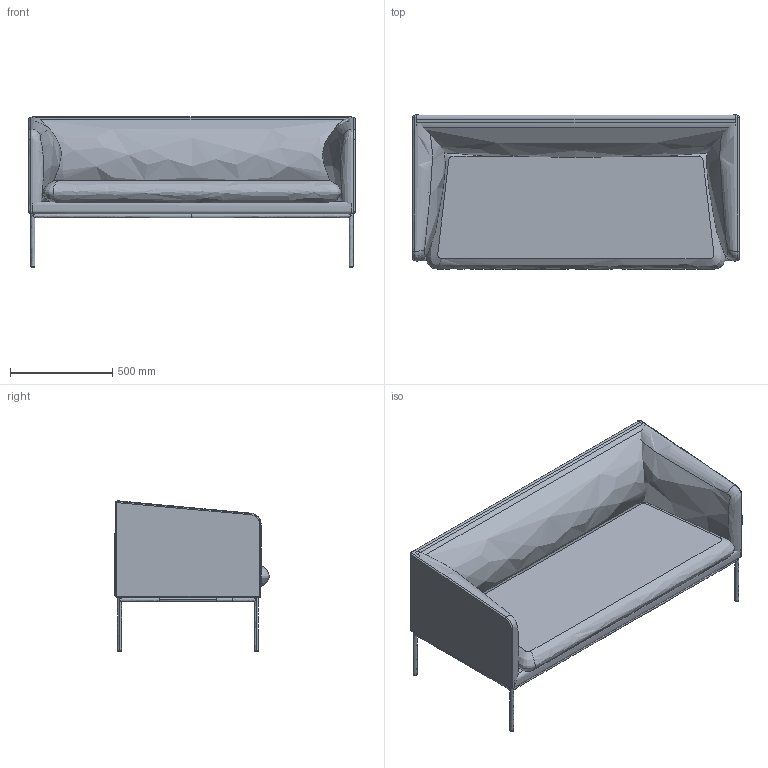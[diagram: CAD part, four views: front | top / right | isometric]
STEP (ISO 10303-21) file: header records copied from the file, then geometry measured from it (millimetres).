
FILE_DESCRIPTION(/* description */ (''),/* implementation_level */ '2;1');
FILE_NAME(/* name */ 'TCBKAQ~L',/* time_stamp */ '2018-04-09T11:34:10+02:00',/* author */ (''),/* organization */ (''),/* preprocessor_version */ 'ST-DEVELOPER v15',/* originating_system */ '',/* authorisation */ '');
FILE_SCHEMA (('AUTOMOTIVE_DESIGN'));
Length unit declared in the file: millimetre
Products named in the file (1): Document
Bounding box: 1598.11 x 755.46 x 735.2 mm (x, y, z)
Volume: 259303631.6 mm3; surface area: 7899537.6 mm2
Topology: 13 solids, 26 shells, 220 faces, 512 edges, 332 vertices
Faces by surface type: bspline 220
Entity records: 20831 total; most frequent: CARTESIAN_POINT 14769, B_SPLINE_CURVE_WITH_KNOTS 999, ORIENTED_EDGE 926, PCURVE 926, DEFINITIONAL_REPRESENTATION 926, SURFACE_CURVE 505, EDGE_CURVE 505, VERTEX_POINT 320
